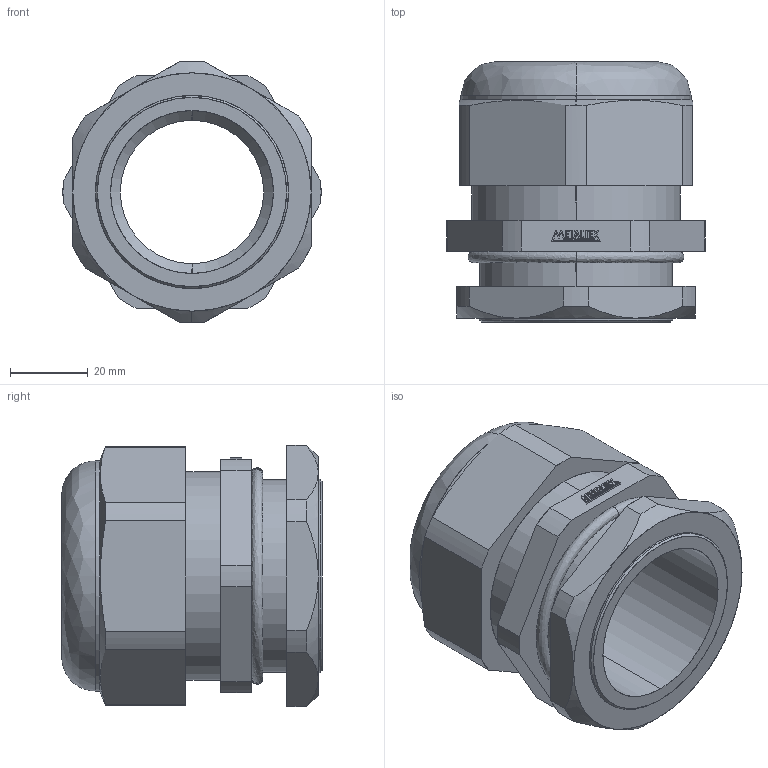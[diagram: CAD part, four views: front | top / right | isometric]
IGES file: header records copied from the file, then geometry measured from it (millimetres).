
Start section: SolidWorks IGES file using analytic representation for surfaces
Global section: file name: D:\X - Arquivos\PROEX\Empresas\P11 - METALTEX\01 - Produtos\IGES\Terceira remessa\Etapa 2\CH-M50.IGS; native system: SolidWorks 2012; preprocessor: SolidWorks 2012; author: Usuario; date: 180207.124232; units: millimetre
Bounding box: 66.6 x 67.2 x 67.6 mm (x, y, z)
Surface area: 29012.5 mm2 (no closed solid volume)
Topology: 0 solids, 0 shells, 174 faces, 1647 edges, 1647 vertices
Faces by surface type: bspline 125, revolution 49
